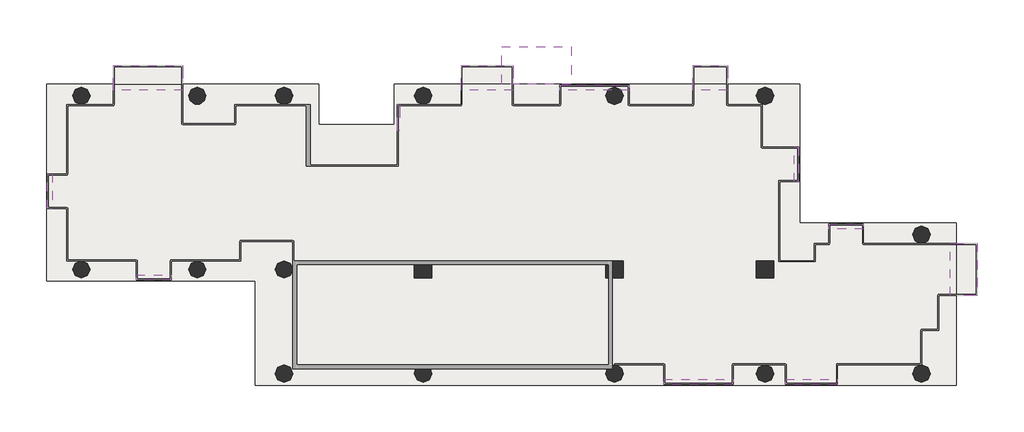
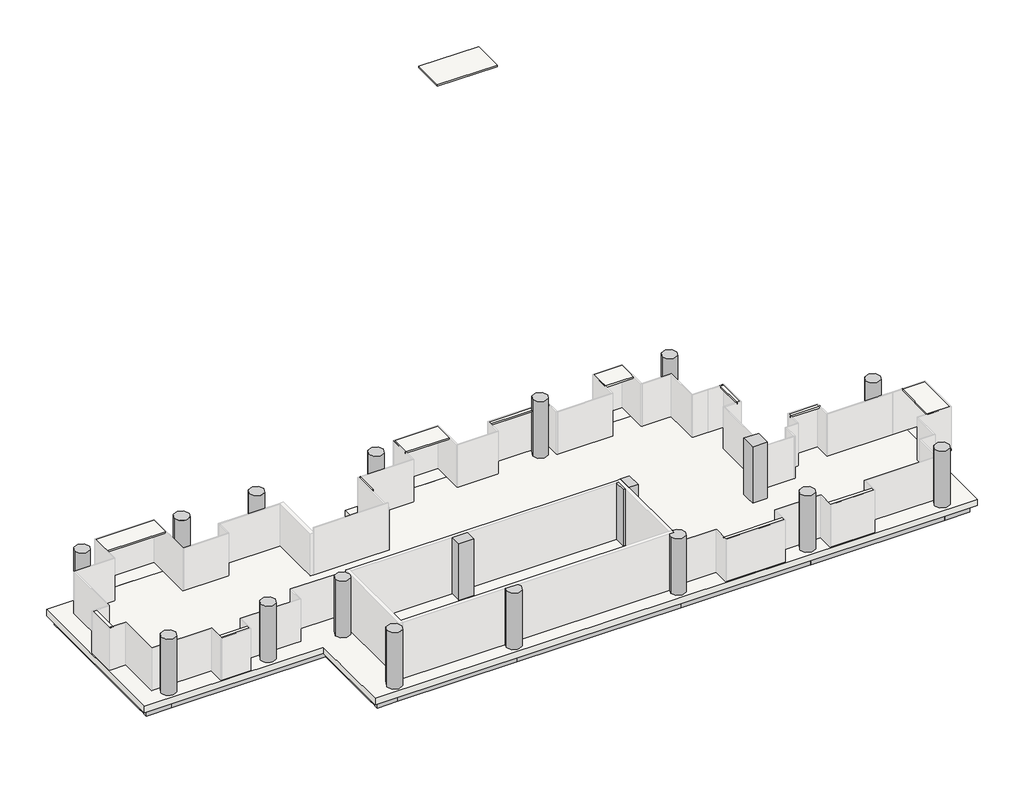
# One storey, part 2 of 2: 40 slabs, 25 beams, 18 columns.
"""IFC4 building model written with IfcOpenShell, lengths in millimetres."""

from ifc_helpers import new_model, si_unit, point, frame, frame_2d, origin, place, context, project, spatial, polyline, circle_curve, trimmed, segment, composite_curve, outline, extrude, transform, mapped, element, save
from ifc_brep_helpers import plane_surface, cylinder_surface, advanced_brep
from components import ajn_arc_ossature_rec_ba_700x600_5242ffbb, ajn_arc_ossature_rec_ba_700x600_213c05e2, ajn_arc_ossature_rec_ba_700x600_4d623bda, ajn_arc_ossature_rec_ba_700x600_c2a8f1af, ajn_arc_ossature_rec_ba_700x600_b2f97811, ajn_arc_ossature_rec_ba_700x600_e688680c, ajn_arc_ossature_rec_ba_700x600_8adee879, ajn_arc_ossature_rec_ba_700x600_6677e51c, ajn_arc_ossature_rec_ba_700x600_60e35d56, ajn_arc_ossature_rec_ba_700x600_9ae0f913, ajn_arc_ossature_rec_ba_700x600_5c14351b, ajn_arc_ossature_rec_ba_700x600_e883967f, ajn_arc_ossature_rec_ba_700x600_0984b03c, ajn_arc_ossature_rec_ba_700x600_78f846f2, ajn_arc_ossature_rec_ba_700x600_e869caa8, ajn_arc_ossature_rec_ba_700x600_0388eb48, ajn_arc_ossature_rec_ba_700x600_e143517c, ajn_arc_ossature_rec_ba_700x600_758f1bfa, ajn_arc_ossature_rec_ba_700x600_64ba80e1, ajn_arc_poteau_circulaire_69af3657

model = new_model("IFC4")

# Units and contexts
model_context = context("Model", 3, world=origin())
ifc_project = project(units=[si_unit("LENGTHUNIT", "METRE", prefix="MILLI")], contexts=[model_context])

# Site, building, storey
site = spatial("IfcSite", under=ifc_project)
building = spatial("IfcBuilding", under=site)
storey = spatial("IfcBuildingStorey", under=building, Name="TW-L 11", Elevation=38799.9999686)

# Beams
placement = place(None, origin())
ajn_arc_ossature_rec_ba_700x600_shape = ajn_arc_ossature_rec_ba_700x600_5242ffbb(model_context)
element("IfcBeam", 1, ObjectType="AJN-ARC-OSSATURE REC-BA : 700x600", at=placement, inside=storey, context=model_context, shape_type="MappedRepresentation", body=[
    mapped(ajn_arc_ossature_rec_ba_700x600_shape, transform((119350.0, 39300.0, 38249.9999686), x_axis=(-1.0, 0.0, 0.0), y_axis=(0.0, -1.0, 0.0), z_axis=(0.0, 0.0, 1.0))),
])
ajn_arc_ossature_rec_ba_700x600_2_shape = ajn_arc_ossature_rec_ba_700x600_213c05e2(model_context)
element("IfcBeam", 2, ObjectType="AJN-ARC-OSSATURE REC-BA : 700x600", at=placement, inside=storey, context=model_context, shape_type="MappedRepresentation", body=[
    mapped(ajn_arc_ossature_rec_ba_700x600_2_shape, transform((100900.0, 34800.0, 38249.9999686), x_axis=(0.0, -1.0, 0.0), y_axis=(1.0, 0.0, 0.0), z_axis=(0.0, 0.0, 1.0))),
])
ajn_arc_ossature_rec_ba_700x600_3_shape = ajn_arc_ossature_rec_ba_700x600_4d623bda(model_context)
element("IfcBeam", 3, ObjectType="AJN-ARC-OSSATURE REC-BA : 700x600", at=placement, inside=storey, context=model_context, shape_type="MappedRepresentation", body=[
    mapped(ajn_arc_ossature_rec_ba_700x600_3_shape, transform((112150.0, 24900.0, 38249.9999686), x_axis=(1.0, 0.0, 0.0), y_axis=(0.0, 1.0, 0.0), z_axis=(0.0, 0.0, 1.0))),
])
ajn_arc_ossature_rec_ba_700x600_4_shape = ajn_arc_ossature_rec_ba_700x600_c2a8f1af(model_context)
element("IfcBeam", 4, ObjectType="AJN-ARC-OSSATURE REC-BA : 700x600", at=placement, inside=storey, context=model_context, shape_type="MappedRepresentation", body=[
    mapped(ajn_arc_ossature_rec_ba_700x600_4_shape, transform((116200.0, 24900.0, 38249.9999686), x_axis=(1.0, 0.0, 0.0), y_axis=(0.0, 1.0, 0.0), z_axis=(0.0, 0.0, 1.0))),
])
ajn_arc_ossature_rec_ba_700x600_5_shape = ajn_arc_ossature_rec_ba_700x600_b2f97811(model_context)
element("IfcBeam", 5, ObjectType="AJN-ARC-OSSATURE REC-BA : 700x600", at=placement, inside=storey, context=model_context, shape_type="MappedRepresentation", body=[
    mapped(ajn_arc_ossature_rec_ba_700x600_5_shape, transform((106900.0, 30300.0, 38249.9999686), x_axis=(1.0, 0.0, 0.0), y_axis=(0.0, 1.0, 0.0), z_axis=(0.0, 0.0, 1.0))),
])
ajn_arc_ossature_rec_ba_700x600_6_shape = ajn_arc_ossature_rec_ba_700x600_e688680c(model_context)
element("IfcBeam", 6, ObjectType="AJN-ARC-OSSATURE REC-BA : 700x600", at=placement, inside=storey, context=model_context, shape_type="MappedRepresentation", body=[
    mapped(ajn_arc_ossature_rec_ba_700x600_6_shape, transform((111700.0, 27600.0, 38249.9999686), x_axis=(0.0, -1.0, 0.0), y_axis=(1.0, 0.0, 0.0), z_axis=(0.0, 0.0, 1.0))),
])
ajn_arc_ossature_rec_ba_700x600_7_shape = ajn_arc_ossature_rec_ba_700x600_8adee879(model_context)
element("IfcBeam", 7, ObjectType="AJN-ARC-OSSATURE REC-BA : 700x600", at=placement, inside=storey, context=model_context, shape_type="MappedRepresentation", body=[
    mapped(ajn_arc_ossature_rec_ba_700x600_7_shape, transform((124750.0, 24900.0, 38249.9999686), x_axis=(1.0, 0.0, 0.0), y_axis=(0.0, 1.0, 0.0), z_axis=(0.0, 0.0, 1.0))),
])
element("IfcBeam", 8, ObjectType="AJN-ARC-OSSATURE REC-BA : 700x600", at=placement, inside=storey, context=model_context, shape_type="MappedRepresentation", body=[
    mapped(ajn_arc_ossature_rec_ba_700x600_7_shape, transform((124750.0, 39300.0, 38249.9999686), x_axis=(-1.0, 0.0, 0.0), y_axis=(0.0, -1.0, 0.0), z_axis=(0.0, 0.0, 1.0))),
])
ajn_arc_ossature_rec_ba_700x600_8_shape = ajn_arc_ossature_rec_ba_700x600_6677e51c(model_context)
element("IfcBeam", 9, ObjectType="AJN-ARC-OSSATURE REC-BA : 700x600", at=placement, inside=storey, context=model_context, shape_type="MappedRepresentation", body=[
    mapped(ajn_arc_ossature_rec_ba_700x600_8_shape, transform((133600.0, 24900.0, 38249.9999686), x_axis=(1.0, 0.0, 0.0), y_axis=(0.0, 1.0, 0.0), z_axis=(0.0, 0.0, 1.0))),
])
ajn_arc_ossature_rec_ba_700x600_9_shape = ajn_arc_ossature_rec_ba_700x600_60e35d56(model_context)
element("IfcBeam", 10, ObjectType="AJN-ARC-OSSATURE REC-BA : 700x600", at=placement, inside=storey, context=model_context, shape_type="MappedRepresentation", body=[
    mapped(ajn_arc_ossature_rec_ba_700x600_9_shape, transform((141550.0, 24900.0, 38249.9999686), x_axis=(1.0, 0.0, 0.0), y_axis=(0.0, 1.0, 0.0), z_axis=(0.0, 0.0, 1.0))),
])
ajn_arc_ossature_rec_ba_700x600_10_shape = ajn_arc_ossature_rec_ba_700x600_9ae0f913(model_context)
element("IfcBeam", 11, ObjectType="AJN-ARC-OSSATURE REC-BA : 700x600", at=placement, inside=storey, context=model_context, shape_type="MappedRepresentation", body=[
    mapped(ajn_arc_ossature_rec_ba_700x600_10_shape, transform((146200.0, 24900.0, 38249.9999686), x_axis=(1.0, 0.0, 0.0), y_axis=(0.0, 1.0, 0.0), z_axis=(0.0, 0.0, 1.0))),
])
element("IfcBeam", 12, ObjectType="AJN-ARC-OSSATURE REC-BA : 700x600", at=placement, inside=storey, context=model_context, shape_type="MappedRepresentation", body=[
    mapped(ajn_arc_ossature_rec_ba_700x600_10_shape, transform((101500.0, 39300.0, 38249.9999686), x_axis=(-1.0, 0.0, 0.0), y_axis=(0.0, -1.0, 0.0), z_axis=(0.0, 0.0, 1.0))),
])
ajn_arc_ossature_rec_ba_700x600_11_shape = ajn_arc_ossature_rec_ba_700x600_5c14351b(model_context)
element("IfcBeam", 13, ObjectType="AJN-ARC-OSSATURE REC-BA : 700x600", at=placement, inside=storey, context=model_context, shape_type="MappedRepresentation", body=[
    mapped(ajn_arc_ossature_rec_ba_700x600_11_shape, transform((146800.0, 28500.0, 38249.9999686), x_axis=(0.0, 1.0, 0.0), y_axis=(-1.0, 0.0, 0.0), z_axis=(0.0, 0.0, 1.0))),
])
element("IfcBeam", 14, ObjectType="AJN-ARC-OSSATURE REC-BA : 700x600", at=placement, inside=storey, context=model_context, shape_type="MappedRepresentation", body=[
    mapped(ajn_arc_ossature_rec_ba_700x600_11_shape, transform((138700.0, 35700.0, 38249.9999686), x_axis=(0.0, 1.0, 0.0), y_axis=(-1.0, 0.0, 0.0), z_axis=(0.0, 0.0, 1.0))),
])
ajn_arc_ossature_rec_ba_700x600_12_shape = ajn_arc_ossature_rec_ba_700x600_e883967f(model_context)
element("IfcBeam", 15, ObjectType="AJN-ARC-OSSATURE REC-BA : 700x600", at=placement, inside=storey, context=model_context, shape_type="MappedRepresentation", body=[
    mapped(ajn_arc_ossature_rec_ba_700x600_12_shape, transform((146200.0, 32100.0, 38249.9999686), x_axis=(-1.0, 0.0, 0.0), y_axis=(0.0, -1.0, 0.0), z_axis=(0.0, 0.0, 1.0))),
])
element("IfcBeam", 16, ObjectType="AJN-ARC-OSSATURE REC-BA : 700x600", at=placement, inside=storey, context=model_context, shape_type="MappedRepresentation", body=[
    mapped(ajn_arc_ossature_rec_ba_700x600_12_shape, transform((138100.0, 39300.0, 38249.9999686), x_axis=(-1.0, 0.0, 0.0), y_axis=(0.0, -1.0, 0.0), z_axis=(0.0, 0.0, 1.0))),
])
element("IfcBeam", 17, ObjectType="AJN-ARC-OSSATURE REC-BA : 700x600", at=placement, inside=storey, context=model_context, shape_type="MappedRepresentation", body=[
    mapped(ajn_arc_ossature_rec_ba_700x600_12_shape, transform((113200.0, 39300.0, 38249.9999686), x_axis=(-1.0, 0.0, 0.0), y_axis=(0.0, -1.0, 0.0), z_axis=(0.0, 0.0, 1.0))),
])
element("IfcBeam", 18, ObjectType="AJN-ARC-OSSATURE REC-BA : 700x600", at=placement, inside=storey, context=model_context, shape_type="MappedRepresentation", body=[
    mapped(ajn_arc_ossature_rec_ba_700x600_12_shape, transform((101500.0, 30300.0, 38249.9999686), x_axis=(1.0, 0.0, 0.0), y_axis=(0.0, 1.0, 0.0), z_axis=(0.0, 0.0, 1.0))),
])
ajn_arc_ossature_rec_ba_700x600_13_shape = ajn_arc_ossature_rec_ba_700x600_0984b03c(model_context)
element("IfcBeam", 19, ObjectType="AJN-ARC-OSSATURE REC-BA : 700x600", at=placement, inside=storey, context=model_context, shape_type="MappedRepresentation", body=[
    mapped(ajn_arc_ossature_rec_ba_700x600_13_shape, transform((142150.0, 32100.0, 38249.9999686), x_axis=(-1.0, 0.0, 0.0), y_axis=(0.0, -1.0, 0.0), z_axis=(0.0, 0.0, 1.0))),
])
ajn_arc_ossature_rec_ba_700x600_14_shape = ajn_arc_ossature_rec_ba_700x600_78f846f2(model_context)
element("IfcBeam", 20, ObjectType="AJN-ARC-OSSATURE REC-BA : 700x600", at=placement, inside=storey, context=model_context, shape_type="MappedRepresentation", body=[
    mapped(ajn_arc_ossature_rec_ba_700x600_14_shape, transform((133600.0, 39300.0, 38249.9999686), x_axis=(-1.0, 0.0, 0.0), y_axis=(0.0, -1.0, 0.0), z_axis=(0.0, 0.0, 1.0))),
])
ajn_arc_ossature_rec_ba_700x600_15_shape = ajn_arc_ossature_rec_ba_700x600_e869caa8(model_context)
element("IfcBeam", 21, ObjectType="AJN-ARC-OSSATURE REC-BA : 700x600", at=placement, inside=storey, context=model_context, shape_type="MappedRepresentation", body=[
    mapped(ajn_arc_ossature_rec_ba_700x600_15_shape, transform((118900.0, 38250.0, 38249.9999686), x_axis=(0.0, -1.0, 0.0), y_axis=(1.0, 0.0, 0.0), z_axis=(0.0, 0.0, 1.0))),
])
ajn_arc_ossature_rec_ba_700x600_16_shape = ajn_arc_ossature_rec_ba_700x600_0388eb48(model_context)
element("IfcBeam", 22, ObjectType="AJN-ARC-OSSATURE REC-BA : 700x600", at=placement, inside=storey, context=model_context, shape_type="MappedRepresentation", body=[
    mapped(ajn_arc_ossature_rec_ba_700x600_16_shape, transform((110350.0, 39300.0, 38249.9999686), x_axis=(-1.0, 0.0, 0.0), y_axis=(0.0, -1.0, 0.0), z_axis=(0.0, 0.0, 1.0))),
])
ajn_arc_ossature_rec_ba_700x600_17_shape = ajn_arc_ossature_rec_ba_700x600_e143517c(model_context)
element("IfcBeam", 23, ObjectType="AJN-ARC-OSSATURE REC-BA : 700x600", at=placement, inside=storey, context=model_context, shape_type="MappedRepresentation", body=[
    mapped(ajn_arc_ossature_rec_ba_700x600_17_shape, transform((105100.0, 39300.0, 38249.9999686), x_axis=(-1.0, 0.0, 0.0), y_axis=(0.0, -1.0, 0.0), z_axis=(0.0, 0.0, 1.0))),
])
ajn_arc_ossature_rec_ba_700x600_18_shape = ajn_arc_ossature_rec_ba_700x600_758f1bfa(model_context)
element("IfcBeam", 24, ObjectType="AJN-ARC-OSSATURE REC-BA : 700x600", at=placement, inside=storey, context=model_context, shape_type="MappedRepresentation", body=[
    mapped(ajn_arc_ossature_rec_ba_700x600_18_shape, transform((116350.0, 37200.0, 38249.9999686), x_axis=(-1.0, 0.0, 0.0), y_axis=(0.0, -1.0, 0.0), z_axis=(0.0, 0.0, 1.0))),
])
ajn_arc_ossature_rec_ba_700x600_19_shape = ajn_arc_ossature_rec_ba_700x600_64ba80e1(model_context)
element("IfcBeam", 25, ObjectType="AJN-ARC-OSSATURE REC-BA : 700x600", at=placement, inside=storey, context=model_context, shape_type="MappedRepresentation", body=[
    mapped(ajn_arc_ossature_rec_ba_700x600_19_shape, transform((113800.0, 38250.0, 38249.9999686), x_axis=(0.0, 1.0, 0.0), y_axis=(-1.0, 0.0, 0.0), z_axis=(0.0, 0.0, 1.0))),
])

# Columns
element("IfcColumn", 26, ObjectType="AJN-ARC-POTEAU CIRCULAIRE : ø90", at=placement, inside=storey, context=model_context, shape_type="SweptSolid", body=[
    extrude(outline(composite_curve([segment(trimmed(circle_curve(frame_2d((102100.0, 39300.0)), 450.0), [point((101650.0, 39300.0))], [point((102550.0, 39300.0))], False, "CARTESIAN"), True, "CONTINUOUS"), segment(trimmed(circle_curve(frame_2d((102100.0, 39300.0)), 450.0), [point((102550.0, 39300.0))], [point((101650.0, 39300.0))], False, "CARTESIAN"), True, "CONTINUOUS")], self_intersect=False)), frame((0.0, 0.0, 38799.9999686), z_axis=(0.0, 0.0, 1.0), x_axis=(1.0, 0.0, 0.0)), (0.0, 0.0, 1.0), 3600.0),
])
element("IfcColumn", 27, ObjectType="AJN-ARC-POTEAU CIRCULAIRE : ø90", at=placement, inside=storey, context=model_context, shape_type="SweptSolid", body=[
    extrude(outline(composite_curve([segment(trimmed(circle_curve(frame_2d((102100.0, 30300.0)), 450.0), [point((101650.0, 30300.0))], [point((102550.0, 30300.0))], False, "CARTESIAN"), True, "CONTINUOUS"), segment(trimmed(circle_curve(frame_2d((102100.0, 30300.0)), 450.0), [point((102550.0, 30300.0))], [point((101650.0, 30300.0))], False, "CARTESIAN"), True, "CONTINUOUS")], self_intersect=False)), frame((0.0, 0.0, 38799.9999686), z_axis=(0.0, 0.0, 1.0), x_axis=(1.0, 0.0, 0.0)), (0.0, 0.0, 1.0), 3600.0),
])
element("IfcColumn", 28, ObjectType="AJN-ARC-POTEAU CIRCULAIRE : ø90", at=placement, inside=storey, context=model_context, shape_type="SweptSolid", body=[
    extrude(outline(composite_curve([segment(trimmed(circle_curve(frame_2d((108100.0, 30300.0)), 450.0), [point((107650.0, 30300.0))], [point((108550.0, 30300.0))], False, "CARTESIAN"), True, "CONTINUOUS"), segment(trimmed(circle_curve(frame_2d((108100.0, 30300.0)), 450.0), [point((108550.0, 30300.0))], [point((107650.0, 30300.0))], False, "CARTESIAN"), True, "CONTINUOUS")], self_intersect=False)), frame((0.0, 0.0, 38799.9999686), z_axis=(0.0, 0.0, 1.0), x_axis=(1.0, 0.0, 0.0)), (0.0, 0.0, 1.0), 3600.0),
])
element("IfcColumn", 29, ObjectType="AJN-ARC-POTEAU CIRCULAIRE : ø90", at=placement, inside=storey, context=model_context, shape_type="SweptSolid", body=[
    extrude(outline(composite_curve([segment(trimmed(circle_curve(frame_2d((112600.0, 39300.0)), 450.0), [point((112150.0, 39300.0))], [point((113050.0, 39300.0))], False, "CARTESIAN"), True, "CONTINUOUS"), segment(trimmed(circle_curve(frame_2d((112600.0, 39300.0)), 450.0), [point((113050.0, 39300.0))], [point((112150.0, 39300.0))], False, "CARTESIAN"), True, "CONTINUOUS")], self_intersect=False)), frame((0.0, 0.0, 38799.9999686), z_axis=(0.0, 0.0, 1.0), x_axis=(1.0, 0.0, 0.0)), (0.0, 0.0, 1.0), 3600.0),
])
element("IfcColumn", 30, ObjectType="AJN-ARC-POTEAU CIRCULAIRE : ø90", at=placement, inside=storey, context=model_context, shape_type="SweptSolid", body=[
    extrude(outline(composite_curve([segment(trimmed(circle_curve(frame_2d((112600.0, 30300.0)), 450.0), [point((112150.0, 30300.0))], [point((113050.0, 30300.0))], False, "CARTESIAN"), True, "CONTINUOUS"), segment(trimmed(circle_curve(frame_2d((112600.0, 30300.0)), 450.0), [point((113050.0, 30300.0))], [point((112150.0, 30300.0))], False, "CARTESIAN"), True, "CONTINUOUS")], self_intersect=False)), frame((0.0, 0.0, 38799.9999686), z_axis=(0.0, 0.0, 1.0), x_axis=(1.0, 0.0, 0.0)), (0.0, 0.0, 1.0), 3600.0),
])
element("IfcColumn", 31, ObjectType="AJN-ARC-POTEAU CIRCULAIRE : ø90", at=placement, inside=storey, context=model_context, shape_type="SweptSolid", body=[
    extrude(outline(composite_curve([segment(trimmed(circle_curve(frame_2d((112600.0, 24900.0)), 450.0), [point((112150.0, 24900.0))], [point((113050.0, 24900.0))], False, "CARTESIAN"), True, "CONTINUOUS"), segment(trimmed(circle_curve(frame_2d((112600.0, 24900.0)), 450.0), [point((113050.0, 24900.0))], [point((112150.0, 24900.0))], False, "CARTESIAN"), True, "CONTINUOUS")], self_intersect=False)), frame((0.0, 0.0, 38799.9999686), z_axis=(0.0, 0.0, 1.0), x_axis=(1.0, 0.0, 0.0)), (0.0, 0.0, 1.0), 3600.0),
])
element("IfcColumn", 32, ObjectType="AJN-ARC-POTEAU CIRCULAIRE : ø90", at=placement, inside=storey, context=model_context, shape_type="SweptSolid", body=[
    extrude(outline(composite_curve([segment(trimmed(circle_curve(frame_2d((119800.0, 24900.0)), 450.0), [point((120250.0, 24900.0))], [point((119350.0, 24900.0))], False, "CARTESIAN"), True, "CONTINUOUS"), segment(trimmed(circle_curve(frame_2d((119800.0, 24900.0)), 450.0), [point((119350.0, 24900.0))], [point((119425.8342613, 25150.0))], False, "CARTESIAN"), True, "CONTINUOUS"), segment(polyline([(119425.8342613, 25150.0), (120174.1657387, 25150.0)]), True, "CONTINUOUS"), segment(trimmed(circle_curve(frame_2d((119800.0, 24900.0)), 450.0), [point((120174.1657387, 25150.0))], [point((120250.0, 24900.0))], False, "CARTESIAN"), True, "CONTINUOUS")], self_intersect=False)), frame((0.0, 0.0, 38799.9999686), z_axis=(0.0, 0.0, 1.0), x_axis=(1.0, 0.0, 0.0)), (0.0, 0.0, 1.0), 3600.0),
])
element("IfcColumn", 33, ObjectType="AJN-ARC-POTEAU CIRCULAIRE : ø90", at=placement, inside=storey, context=model_context, shape_type="SweptSolid", body=[
    extrude(outline(composite_curve([segment(trimmed(circle_curve(frame_2d((119800.0, 39300.0)), 450.0), [point((119350.0, 39300.0))], [point((120250.0, 39300.0))], False, "CARTESIAN"), True, "CONTINUOUS"), segment(trimmed(circle_curve(frame_2d((119800.0, 39300.0)), 450.0), [point((120250.0, 39300.0))], [point((119350.0, 39300.0))], False, "CARTESIAN"), True, "CONTINUOUS")], self_intersect=False)), frame((0.0, 0.0, 38799.9999686), z_axis=(0.0, 0.0, 1.0), x_axis=(1.0, 0.0, 0.0)), (0.0, 0.0, 1.0), 3600.0),
])
element("IfcColumn", 34, ObjectType="AJN-ARC-POTEAU CIRCULAIRE : ø90", at=placement, inside=storey, context=model_context, shape_type="SweptSolid", body=[
    extrude(outline(composite_curve([segment(trimmed(circle_curve(frame_2d((129700.0, 39300.0)), 450.0), [point((129250.0, 39300.0))], [point((130150.0, 39300.0))], False, "CARTESIAN"), True, "CONTINUOUS"), segment(trimmed(circle_curve(frame_2d((129700.0, 39300.0)), 450.0), [point((130150.0, 39300.0))], [point((129250.0, 39300.0))], False, "CARTESIAN"), True, "CONTINUOUS")], self_intersect=False)), frame((0.0, 0.0, 38799.9999686), z_axis=(0.0, 0.0, 1.0), x_axis=(1.0, 0.0, 0.0)), (0.0, 0.0, 1.0), 3600.0),
])
element("IfcColumn", 35, ObjectType="AJN-ARC-POTEAU CIRCULAIRE : ø90", at=placement, inside=storey, context=model_context, shape_type="SweptSolid", body=[
    extrude(outline(composite_curve([segment(trimmed(circle_curve(frame_2d((129700.0, 24900.0)), 450.0), [point((130150.0, 24900.0))], [point((129250.0, 24900.0))], False, "CARTESIAN"), True, "CONTINUOUS"), segment(trimmed(circle_curve(frame_2d((129700.0, 24900.0)), 450.0), [point((129250.0, 24900.0))], [point((129325.8342613, 25150.0))], False, "CARTESIAN"), True, "CONTINUOUS"), segment(polyline([(129325.8342613, 25150.0), (129600.0, 25150.0), (129600.0, 25338.7482194)]), True, "CONTINUOUS"), segment(trimmed(circle_curve(frame_2d((129700.0, 24900.0)), 450.0), [point((129600.0, 25338.7482194))], [point((130150.0, 24900.0))], False, "CARTESIAN"), True, "CONTINUOUS")], self_intersect=False)), frame((0.0, 0.0, 38799.9999686), z_axis=(0.0, 0.0, 1.0), x_axis=(1.0, 0.0, 0.0)), (0.0, 0.0, 1.0), 3600.0),
])
element("IfcColumn", 36, ObjectType="AJN-ARC-POTEAU CIRCULAIRE : ø90", at=placement, inside=storey, context=model_context, shape_type="SweptSolid", body=[
    extrude(outline(composite_curve([segment(trimmed(circle_curve(frame_2d((137500.0, 39300.0)), 450.0), [point((137050.0, 39300.0))], [point((137950.0, 39300.0))], False, "CARTESIAN"), True, "CONTINUOUS"), segment(trimmed(circle_curve(frame_2d((137500.0, 39300.0)), 450.0), [point((137950.0, 39300.0))], [point((137050.0, 39300.0))], False, "CARTESIAN"), True, "CONTINUOUS")], self_intersect=False)), frame((0.0, 0.0, 38799.9999686), z_axis=(0.0, 0.0, 1.0), x_axis=(1.0, 0.0, 0.0)), (0.0, 0.0, 1.0), 3600.0),
])
element("IfcColumn", 37, ObjectType="AJN-ARC-POTEAU CIRCULAIRE : ø90", at=placement, inside=storey, context=model_context, shape_type="SweptSolid", body=[
    extrude(outline(composite_curve([segment(trimmed(circle_curve(frame_2d((137500.0, 24900.0)), 450.0), [point((137050.0, 24900.0))], [point((137950.0, 24900.0))], False, "CARTESIAN"), True, "CONTINUOUS"), segment(trimmed(circle_curve(frame_2d((137500.0, 24900.0)), 450.0), [point((137950.0, 24900.0))], [point((137050.0, 24900.0))], False, "CARTESIAN"), True, "CONTINUOUS")], self_intersect=False)), frame((0.0, 0.0, 38799.9999686), z_axis=(0.0, 0.0, 1.0), x_axis=(1.0, 0.0, 0.0)), (0.0, 0.0, 1.0), 3600.0),
])
element("IfcColumn", 38, ObjectType="AJN-ARC-POTEAU CIRCULAIRE : ø90", at=placement, inside=storey, context=model_context, shape_type="SweptSolid", body=[
    extrude(outline(composite_curve([segment(trimmed(circle_curve(frame_2d((145600.0, 24900.0)), 450.0), [point((145150.0, 24900.0))], [point((146050.0, 24900.0))], False, "CARTESIAN"), True, "CONTINUOUS"), segment(trimmed(circle_curve(frame_2d((145600.0, 24900.0)), 450.0), [point((146050.0, 24900.0))], [point((145150.0, 24900.0))], False, "CARTESIAN"), True, "CONTINUOUS")], self_intersect=False)), frame((0.0, 0.0, 38799.9999686), z_axis=(0.0, 0.0, 1.0), x_axis=(1.0, 0.0, 0.0)), (0.0, 0.0, 1.0), 3600.0),
])
element("IfcColumn", 39, ObjectType="AJN-ARC-POTEAU CIRCULAIRE : ø90", at=placement, inside=storey, context=model_context, shape_type="AdvancedBrep", body=[
    advanced_brep(
    [(145150.0, 32100.0, 38799.9999686), (146050.0, 32100.0, 38799.9999686), (145638.6089983, 31651.6593424, 38799.9999686), (145561.3910017, 31651.6593424, 38799.9999686), (145150.0, 32100.0, 42399.9999686), (146050.0, 32100.0, 42399.9999686), (145561.3910017, 31651.6593424, 41499.9999686), (145638.6089983, 31651.6593424, 41499.9999686)],
    [
        (0, 1, circle_curve(frame((145600.0, 32100.0, 38799.9999686), z_axis=(0.0, 0.0, -1.0), x_axis=(1.0, 0.0, 0.0)), 450.0)),
        (1, 2, circle_curve(frame((145600.0, 32100.0, 38799.9999686), z_axis=(0.0, 0.0, -1.0), x_axis=(1.0, 0.0, 0.0)), 450.0)),
        (2, 3),
        (3, 0, circle_curve(frame((145600.0, 32100.0, 38799.9999686), z_axis=(0.0, 0.0, -1.0), x_axis=(1.0, 0.0, 0.0)), 450.0)),
        (0, 4),
        (4, 5, circle_curve(frame((145600.0, 32100.0, 42399.9999686), z_axis=(0.0, 0.0, -1.0), x_axis=(1.0, 0.0, 0.0)), 450.0)),
        (5, 1),
        (5, 4, circle_curve(frame((145600.0, 32100.0, 42399.9999686), z_axis=(0.0, 0.0, -1.0), x_axis=(1.0, 0.0, 0.0)), 450.0)),
        (3, 6),
        (6, 7, circle_curve(frame((145600.0, 32100.0, 41499.9999686), z_axis=(0.0, 0.0, 1.0), x_axis=(1.0, 0.0, 0.0)), 450.0)),
        (7, 2),
        (7, 6),
    ],
    [
        plane_surface(frame((146050.0, 32100.0, 38799.9999686), z_axis=(0.0, 0.0, -1.0), x_axis=(0.0, -1.0, 0.0))),
        cylinder_surface(frame((145600.0, 32100.0, 38799.9999686), z_axis=(0.0, 0.0, 1.0), x_axis=(1.0, 0.0, 0.0)), 450.0),
        plane_surface(frame((146050.0, 32100.0, 42399.9999686), z_axis=(0.0, 0.0, 1.0), x_axis=(0.0, 1.0, 0.0))),
        plane_surface(frame((146497.681474, 31651.6593424, 38799.9999686), z_axis=(0.0, -1.0, 0.0), x_axis=(-1.0, 0.0, 0.0))),
        plane_surface(frame((142597.681474, 31651.6593424, 41499.9999686), z_axis=(0.0, 0.0, -1.0), x_axis=(0.0, -1.0, 0.0))),
    ],
    [
        (0, [[1, 2, 3, 4]]),
        (1, [[-1, 5, 6, 7]]),
        (1, [[-7, 8, -5, -4, 9, 10, 11, -2]]),
        (2, [[-6, -8]]),
        (3, [[12, -9, -3, -11]]),
        (4, [[-12, -10]]),
    ],
),
])
ajn_arc_poteau_circulaire_shape = ajn_arc_poteau_circulaire_69af3657(model_context)
element("IfcColumn", 40, ObjectType="AJN-ARC-POTEAU CIRCULAIRE : ø90", at=placement, inside=storey, context=model_context, shape_type="MappedRepresentation", body=[
    mapped(ajn_arc_poteau_circulaire_shape, transform((108100.0, 39300.0, 0.0), x_axis=(1.0, 0.0, 0.0), y_axis=(0.0, 1.0, 0.0), z_axis=(0.0, 0.0, 1.0))),
])
element("IfcColumn", 41, ObjectType="AJN-ARC-POTEAU RECTANGULAIRE : 900 mm x 900 mm", at=placement, inside=storey, context=model_context, shape_type="SweptSolid", body=[
    extrude(outline(polyline([(137950.0, 30750.0), (137950.0, 29850.0), (137050.0, 29850.0), (137050.0, 30750.0), (137950.0, 30750.0)])), frame((0.0, 0.0, 38799.9999686), z_axis=(0.0, 0.0, 1.0), x_axis=(1.0, 0.0, 0.0)), (0.0, 0.0, 1.0), 3600.0),
])
element("IfcColumn", 42, ObjectType="AJN-ARC-POTEAU RECTANGULAIRE : 900 mm x 900 mm", at=placement, inside=storey, context=model_context, shape_type="SweptSolid", body=[
    extrude(outline(polyline([(129400.0, 29850.0), (129250.0, 29850.0), (129250.0, 30550.0), (129400.0, 30550.0), (129400.0, 29850.0)])), frame((0.0, 0.0, 38799.9999686), z_axis=(0.0, 0.0, 1.0), x_axis=(1.0, 0.0, 0.0)), (0.0, 0.0, 1.0), 3600.0),
    extrude(outline(polyline([(130150.0, 30750.0), (130150.0, 29850.0), (129600.0, 29850.0), (129600.0, 30750.0), (130150.0, 30750.0)])), frame((0.0, 0.0, 38799.9999686), z_axis=(0.0, 0.0, 1.0), x_axis=(1.0, 0.0, 0.0)), (0.0, 0.0, 1.0), 3600.0),
])
element("IfcColumn", 43, ObjectType="AJN-ARC-POTEAU RECTANGULAIRE : 900 mm x 900 mm", at=placement, inside=storey, context=model_context, shape_type="SweptSolid", body=[
    extrude(outline(polyline([(120250.0, 29850.0), (119350.0, 29850.0), (119350.0, 30550.0), (120250.0, 30550.0), (120250.0, 29850.0)])), frame((0.0, 0.0, 38799.9999686), z_axis=(0.0, 0.0, 1.0), x_axis=(1.0, 0.0, 0.0)), (0.0, 0.0, 1.0), 3600.0),
])

# Slabs
element("IfcSlab", 44, ObjectType="AJN-ARC-SLAB-10cm", at=placement, inside=storey, context=model_context, shape_type="SweptSolid", body=[
    extrude(outline(polyline([(107350.0, 39900.0), (103750.0, 39900.0), (103750.0, 40850.0), (107350.0, 40850.0), (107350.0, 39900.0)])), frame((0.0, 0.0, 38699.9999686), z_axis=(0.0, 0.0, 1.0), x_axis=(1.0, 0.0, 0.0)), (0.0, 0.0, 1.0), 100.0),
])
element("IfcSlab", 45, ObjectType="AJN-ARC-SLAB-10cm", at=placement, inside=storey, context=model_context, shape_type="SweptSolid", body=[
    extrude(outline(polyline([(148497.681474, 28951.6593424), (147400.0, 28951.6593424), (147400.0, 31651.6593424), (148497.681474, 31651.6593424), (148497.681474, 28951.6593424)])), frame((0.0, 0.0, 38699.9999686), z_axis=(0.0, 0.0, 1.0), x_axis=(1.0, 0.0, 0.0)), (0.0, 0.0, 1.0), 100.0),
])
element("IfcSlab", 46, ObjectType="AJN-ARC-SLAB-10cm", at=placement, inside=storey, context=model_context, shape_type="SweptSolid", body=[
    extrude(outline(polyline([(135557.0344085, 39900.0), (133757.0344085, 39900.0), (133757.0344085, 40850.0), (135557.0344085, 40850.0), (135557.0344085, 39900.0)])), frame((0.0, 0.0, 38699.9999686), z_axis=(0.0, 0.0, 1.0), x_axis=(1.0, 0.0, 0.0)), (0.0, 0.0, 1.0), 100.0),
])
element("IfcSlab", 47, ObjectType="AJN-ARC-SLAB-10cm", at=placement, inside=storey, context=model_context, shape_type="SweptSolid", body=[
    extrude(outline(polyline([(124459.0442395, 39900.0), (121759.0442395, 39900.0), (121759.0442395, 40850.0), (124459.0442395, 40850.0), (124459.0442395, 39900.0)])), frame((0.0, 0.0, 38699.9999686), z_axis=(0.0, 0.0, 1.0), x_axis=(1.0, 0.0, 0.0)), (0.0, 0.0, 1.0), 100.0),
])
element("IfcSlab", 48, ObjectType="AJN-ARC-SLAB-10cm", at=placement, inside=storey, context=model_context, shape_type="SweptSolid", body=[
    extrude(outline(polyline([(124459.0442395, 39900.0), (121759.0442395, 39900.0), (121759.0442395, 40850.0), (124459.0442395, 40850.0), (124459.0442395, 39900.0)])), frame((0.0, 0.0, 38699.9999686), z_axis=(0.0, 0.0, 1.0), x_axis=(1.0, 0.0, 0.0)), (0.0, 0.0, 1.0), 100.0),
])
element("IfcSlab", 49, ObjectType="AJN-ARC-SLAB-10cm", at=placement, inside=storey, context=model_context, shape_type="SweptSolid", body=[
    extrude(outline(polyline([(124459.0442395, 39900.0), (121759.0442395, 39900.0), (121759.0442395, 40850.0), (124459.0442395, 40850.0), (124459.0442395, 39900.0)])), frame((0.0, 0.0, 38699.9999686), z_axis=(0.0, 0.0, 1.0), x_axis=(1.0, 0.0, 0.0)), (0.0, 0.0, 1.0), 100.0),
])
element("IfcSlab", 50, ObjectType="AJN-ARC-SLAB-10cm", at=placement, inside=storey, context=model_context, shape_type="SweptSolid", body=[
    extrude(outline(polyline([(124459.0442395, 39900.0), (121759.0442395, 39900.0), (121759.0442395, 40850.0), (124459.0442395, 40850.0), (124459.0442395, 39900.0)])), frame((0.0, 0.0, 38699.9999686), z_axis=(0.0, 0.0, 1.0), x_axis=(1.0, 0.0, 0.0)), (0.0, 0.0, 1.0), 100.0),
])
element("IfcSlab", 51, ObjectType="AJN-ARC-SLAB-10cm", at=placement, inside=storey, context=model_context, shape_type="SweptSolid", body=[
    extrude(outline(polyline([(124459.0442395, 39900.0), (121759.0442395, 39900.0), (121759.0442395, 40850.0), (124459.0442395, 40850.0), (124459.0442395, 39900.0)])), frame((0.0, 0.0, 38699.9999686), z_axis=(0.0, 0.0, 1.0), x_axis=(1.0, 0.0, 0.0)), (0.0, 0.0, 1.0), 100.0),
])
element("IfcSlab", 52, ObjectType="AJN-ARC-SLAB-10cm", at=placement, inside=storey, context=model_context, shape_type="SweptSolid", body=[
    extrude(outline(polyline([(124459.0442395, 39900.0), (121759.0442395, 39900.0), (121759.0442395, 40850.0), (124459.0442395, 40850.0), (124459.0442395, 39900.0)])), frame((0.0, 0.0, 38699.9999686), z_axis=(0.0, 0.0, 1.0), x_axis=(1.0, 0.0, 0.0)), (0.0, 0.0, 1.0), 100.0),
])
element("IfcSlab", 53, ObjectType="AJN-ARC-SLAB-10cm", at=placement, inside=storey, context=model_context, shape_type="SweptSolid", body=[
    extrude(outline(polyline([(124459.0442395, 39900.0), (121759.0442395, 39900.0), (121759.0442395, 40850.0), (124459.0442395, 40850.0), (124459.0442395, 39900.0)])), frame((0.0, 0.0, 38699.9999686), z_axis=(0.0, 0.0, 1.0), x_axis=(1.0, 0.0, 0.0)), (0.0, 0.0, 1.0), 100.0),
])
element("IfcSlab", 54, ObjectType="AJN-ARC-SLAB-10cm", at=placement, inside=storey, context=model_context, shape_type="SweptSolid", body=[
    extrude(outline(polyline([(124459.0442395, 39900.0), (121759.0442395, 39900.0), (121759.0442395, 40850.0), (124459.0442395, 40850.0), (124459.0442395, 39900.0)])), frame((0.0, 0.0, 38699.9999686), z_axis=(0.0, 0.0, 1.0), x_axis=(1.0, 0.0, 0.0)), (0.0, 0.0, 1.0), 100.0),
])
element("IfcSlab", 55, ObjectType="AJN-ARC-SLAB-10cm", at=placement, inside=storey, context=model_context, shape_type="SweptSolid", body=[
    extrude(outline(polyline([(124459.0442395, 39900.0), (121759.0442395, 39900.0), (121759.0442395, 40850.0), (124459.0442395, 40850.0), (124459.0442395, 39900.0)])), frame((0.0, 0.0, 38699.9999686), z_axis=(0.0, 0.0, 1.0), x_axis=(1.0, 0.0, 0.0)), (0.0, 0.0, 1.0), 100.0),
])
element("IfcSlab", 56, ObjectType="AJN-ARC-SLAB-10cm", at=placement, inside=storey, context=model_context, shape_type="SweptSolid", body=[
    extrude(outline(polyline([(124459.0442395, 39900.0), (121759.0442395, 39900.0), (121759.0442395, 40850.0), (124459.0442395, 40850.0), (124459.0442395, 39900.0)])), frame((0.0, 0.0, 38699.9999686), z_axis=(0.0, 0.0, 1.0), x_axis=(1.0, 0.0, 0.0)), (0.0, 0.0, 1.0), 100.0),
])
element("IfcSlab", 57, ObjectType="AJN-ARC-SLAB-10cm", at=placement, inside=storey, context=model_context, shape_type="SweptSolid", body=[
    extrude(outline(polyline([(124459.0442395, 39900.0), (121759.0442395, 39900.0), (121759.0442395, 40850.0), (124459.0442395, 40850.0), (124459.0442395, 39900.0)])), frame((0.0, 0.0, 38699.9999686), z_axis=(0.0, 0.0, 1.0), x_axis=(1.0, 0.0, 0.0)), (0.0, 0.0, 1.0), 100.0),
])
element("IfcSlab", 58, ObjectType="AJN-ARC-SLAB-10cm", at=placement, inside=storey, context=model_context, shape_type="SweptSolid", body=[
    extrude(outline(polyline([(124459.0442395, 39900.0), (121759.0442395, 39900.0), (121759.0442395, 40850.0), (124459.0442395, 40850.0), (124459.0442395, 39900.0)])), frame((0.0, 0.0, 38699.9999686), z_axis=(0.0, 0.0, 1.0), x_axis=(1.0, 0.0, 0.0)), (0.0, 0.0, 1.0), 100.0),
])
element("IfcSlab", 59, ObjectType="AJN-ARC-SLAB-10cm", at=placement, inside=storey, context=model_context, shape_type="SweptSolid", body=[
    extrude(outline(polyline([(124459.0442395, 39900.0), (121759.0442395, 39900.0), (121759.0442395, 40850.0), (124459.0442395, 40850.0), (124459.0442395, 39900.0)])), frame((0.0, 0.0, 38699.9999686), z_axis=(0.0, 0.0, 1.0), x_axis=(1.0, 0.0, 0.0)), (0.0, 0.0, 1.0), 100.0),
])
element("IfcSlab", 60, ObjectType="AJN-ARC-SLAB-10cm", at=placement, inside=storey, context=model_context, shape_type="SweptSolid", body=[
    extrude(outline(polyline([(124459.0442395, 39900.0), (121759.0442395, 39900.0), (121759.0442395, 40850.0), (124459.0442395, 40850.0), (124459.0442395, 39900.0)])), frame((0.0, 0.0, 38699.9999686), z_axis=(0.0, 0.0, 1.0), x_axis=(1.0, 0.0, 0.0)), (0.0, 0.0, 1.0), 100.0),
])
element("IfcSlab", 61, ObjectType="AJN-ARC-SLAB-10cm", at=placement, inside=storey, context=model_context, shape_type="SweptSolid", body=[
    extrude(outline(polyline([(124459.0442395, 39900.0), (121759.0442395, 39900.0), (121759.0442395, 40850.0), (124459.0442395, 40850.0), (124459.0442395, 39900.0)])), frame((0.0, 0.0, 38699.9999686), z_axis=(0.0, 0.0, 1.0), x_axis=(1.0, 0.0, 0.0)), (0.0, 0.0, 1.0), 100.0),
])
element("IfcSlab", 62, ObjectType="AJN-ARC-SLAB-10cm", at=placement, inside=storey, context=model_context, shape_type="SweptSolid", body=[
    extrude(outline(polyline([(124459.0442395, 39900.0), (121759.0442395, 39900.0), (121759.0442395, 40850.0), (124459.0442395, 40850.0), (124459.0442395, 39900.0)])), frame((0.0, 0.0, 38699.9999686), z_axis=(0.0, 0.0, 1.0), x_axis=(1.0, 0.0, 0.0)), (0.0, 0.0, 1.0), 100.0),
])
element("IfcSlab", 63, ObjectType="AJN-ARC-SLAB-10cm", at=placement, inside=storey, context=model_context, shape_type="SweptSolid", body=[
    extrude(outline(polyline([(100600.0, 33450.0), (100347.1743518, 33450.0), (100347.1743518, 35250.0), (100600.0, 35250.0), (100600.0, 33450.0)])), frame((0.0, 0.0, 41399.9999686), z_axis=(0.0, 0.0, 1.0), x_axis=(1.0, 0.0, 0.0)), (0.0, 0.0, 1.0), 100.0),
])
element("IfcSlab", 64, ObjectType="AJN-ARC-SLAB-10cm", at=placement, inside=storey, context=model_context, shape_type="SweptSolid", body=[
    extrude(outline(polyline([(107350.0, 39600.0), (103750.0, 39600.0), (103750.0, 40850.0), (107350.0, 40850.0), (107350.0, 39600.0)])), frame((0.0, 0.0, 41399.9999686), z_axis=(0.0, 0.0, 1.0), x_axis=(1.0, 0.0, 0.0)), (0.0, 0.0, 1.0), 100.0),
])
element("IfcSlab", 65, ObjectType="AJN-ARC-SLAB-10cm", at=placement, inside=storey, context=model_context, shape_type="SweptSolid", body=[
    extrude(outline(polyline([(135557.0344085, 39600.0), (133757.0344085, 39600.0), (133757.0344085, 40850.0), (135557.0344085, 40850.0), (135557.0344085, 39600.0)])), frame((0.0, 0.0, 41399.9999686), z_axis=(0.0, 0.0, 1.0), x_axis=(1.0, 0.0, 0.0)), (0.0, 0.0, 1.0), 100.0),
])
element("IfcSlab", 66, ObjectType="AJN-ARC-SLAB-10cm", at=placement, inside=storey, context=model_context, shape_type="SweptSolid", body=[
    extrude(outline(polyline([(130463.0639015, 39600.0), (126863.0639015, 39600.0), (126863.0639015, 39850.0), (130463.0639015, 39850.0), (130463.0639015, 39600.0)])), frame((0.0, 0.0, 41399.9999686), z_axis=(0.0, 0.0, 1.0), x_axis=(1.0, 0.0, 0.0)), (0.0, 0.0, 1.0), 100.0),
])
element("IfcSlab", 67, ObjectType="AJN-ARC-SLAB-10cm", at=placement, inside=storey, context=model_context, shape_type="SweptSolid", body=[
    extrude(outline(polyline([(142597.681474, 32400.0), (140797.681474, 32400.0), (140797.681474, 32651.6593424), (142597.681474, 32651.6593424), (142597.681474, 32400.0)])), frame((0.0, 0.0, 41399.9999686), z_axis=(0.0, 0.0, 1.0), x_axis=(1.0, 0.0, 0.0)), (0.0, 0.0, 1.0), 100.0),
])
element("IfcSlab", 68, ObjectType="AJN-ARC-SLAB-10cm", at=placement, inside=storey, context=model_context, shape_type="SweptSolid", body=[
    extrude(outline(polyline([(106747.1743518, 29750.0), (104947.1743518, 29750.0), (104947.1743518, 30000.0), (106747.1743518, 30000.0), (106747.1743518, 29750.0)])), frame((0.0, 0.0, 41399.9999686), z_axis=(0.0, 0.0, 1.0), x_axis=(1.0, 0.0, 0.0)), (0.0, 0.0, 1.0), 100.0),
])
element("IfcSlab", 69, ObjectType="AJN-ARC-SLAB-10cm", at=placement, inside=storey, context=model_context, shape_type="SweptSolid", body=[
    extrude(outline(polyline([(124459.0442395, 39600.0), (121759.0442395, 39600.0), (121759.0442395, 40850.0), (124459.0442395, 40850.0), (124459.0442395, 39600.0)])), frame((0.0, 0.0, 41399.9999686), z_axis=(0.0, 0.0, 1.0), x_axis=(1.0, 0.0, 0.0)), (0.0, 0.0, 1.0), 100.0),
])
element("IfcSlab", 70, ObjectType="AJN-ARC-SLAB-10cm", at=placement, inside=storey, context=model_context, shape_type="SweptSolid", body=[
    extrude(outline(polyline([(139250.0, 34850.0), (139000.0, 34850.0), (139000.0, 36650.0), (139250.0, 36650.0), (139250.0, 34850.0)])), frame((0.0, 0.0, 41399.9999686), z_axis=(0.0, 0.0, 1.0), x_axis=(1.0, 0.0, 0.0)), (0.0, 0.0, 1.0), 100.0),
])
element("IfcSlab", 71, ObjectType="AJN-ARC-SLAB-10cm", at=placement, inside=storey, context=model_context, shape_type="SweptSolid", body=[
    extrude(outline(polyline([(148497.681474, 28951.6593424), (147100.0, 28951.6593424), (147100.0, 31651.6593424), (148497.681474, 31651.6593424), (148497.681474, 28951.6593424)])), frame((0.0, 0.0, 41399.9999686), z_axis=(0.0, 0.0, 1.0), x_axis=(1.0, 0.0, 0.0)), (0.0, 0.0, 1.0), 100.0),
])
element("IfcSlab", 72, ObjectType="AJN-ARC-SLAB-10cm", at=placement, inside=storey, context=model_context, shape_type="SweptSolid", body=[
    extrude(outline(polyline([(141250.3827907, 24350.0), (138550.3827907, 24350.0), (138550.3827907, 24600.0), (141250.3827907, 24600.0), (141250.3827907, 24350.0)])), frame((0.0, 0.0, 41399.9999686), z_axis=(0.0, 0.0, 1.0), x_axis=(1.0, 0.0, 0.0)), (0.0, 0.0, 1.0), 100.0),
])
element("IfcSlab", 73, ObjectType="AJN-ARC-SLAB-10cm", at=placement, inside=storey, context=model_context, shape_type="SweptSolid", body=[
    extrude(outline(polyline([(135850.3827907, 24350.0), (132250.3827907, 24350.0), (132250.3827907, 24600.0), (135850.3827907, 24600.0), (135850.3827907, 24350.0)])), frame((0.0, 0.0, 41399.9999686), z_axis=(0.0, 0.0, 1.0), x_axis=(1.0, 0.0, 0.0)), (0.0, 0.0, 1.0), 100.0),
])
element("IfcSlab", 74, ObjectType="AJN-ARC-SLAB-10cm", at=placement, inside=storey, context=model_context, shape_type="SweptSolid", body=[
    extrude(outline(polyline([(118600.0, 37500.0), (118450.0, 37500.0), (118450.0, 38850.0), (118600.0, 38850.0), (118600.0, 37500.0)])), frame((0.0, 0.0, 41399.9999686), z_axis=(0.0, 0.0, 1.0), x_axis=(1.0, 0.0, 0.0)), (0.0, 0.0, 1.0), 100.0),
])
element("IfcSlab", 75, ObjectType="AJN-ARC-SLAB-10cm", at=placement, inside=storey, context=model_context, shape_type="SweptSolid", body=[
    extrude(outline(polyline([(118600.0, 37500.0), (118450.0, 37500.0), (118450.0, 38850.0), (118600.0, 38850.0), (118600.0, 37500.0)])), frame((0.0, 0.0, 41399.9999686), z_axis=(0.0, 0.0, 1.0), x_axis=(1.0, 0.0, 0.0)), (0.0, 0.0, 1.0), 100.0),
])
element("IfcSlab", 76, ObjectType="AJN-ARC-SLAB-10cm", at=placement, inside=storey, context=model_context, shape_type="SweptSolid", body=[
    extrude(outline(polyline([(118600.0, 37500.0), (118450.0, 37500.0), (118450.0, 38850.0), (118600.0, 38850.0), (118600.0, 37500.0)])), frame((0.0, 0.0, 41399.9999686), z_axis=(0.0, 0.0, 1.0), x_axis=(1.0, 0.0, 0.0)), (0.0, 0.0, 1.0), 100.0),
])
element("IfcSlab", 77, ObjectType="AJN-ARC-SLAB-10cm", at=placement, inside=storey, context=model_context, shape_type="SweptSolid", body=[
    extrude(outline(polyline([(118600.0, 37500.0), (118450.0, 37500.0), (118450.0, 38850.0), (118600.0, 38850.0), (118600.0, 37500.0)])), frame((0.0, 0.0, 41399.9999686), z_axis=(0.0, 0.0, 1.0), x_axis=(1.0, 0.0, 0.0)), (0.0, 0.0, 1.0), 100.0),
])
element("IfcSlab", 78, ObjectType="AJN-ARC-SLAB-10cm", at=placement, inside=storey, context=model_context, shape_type="SweptSolid", body=[
    extrude(outline(polyline([(118600.0, 37500.0), (118450.0, 37500.0), (118450.0, 38850.0), (118600.0, 38850.0), (118600.0, 37500.0)])), frame((0.0, 0.0, 41399.9999686), z_axis=(0.0, 0.0, 1.0), x_axis=(1.0, 0.0, 0.0)), (0.0, 0.0, 1.0), 100.0),
])
element("IfcSlab", 79, ObjectType="AJN-ARC-SLAB-10cm", at=placement, inside=storey, context=model_context, shape_type="SweptSolid", body=[
    extrude(outline(polyline([(118600.0, 37500.0), (118450.0, 37500.0), (118450.0, 38850.0), (118600.0, 38850.0), (118600.0, 37500.0)])), frame((0.0, 0.0, 41399.9999686), z_axis=(0.0, 0.0, 1.0), x_axis=(1.0, 0.0, 0.0)), (0.0, 0.0, 1.0), 100.0),
])
element("IfcSlab", 80, ObjectType="AJN-ARC-SLAB-10cm", at=placement, inside=storey, context=model_context, shape_type="SweptSolid", body=[
    extrude(outline(polyline([(118600.0, 37500.0), (118450.0, 37500.0), (118450.0, 38850.0), (118600.0, 38850.0), (118600.0, 37500.0)])), frame((0.0, 0.0, 41399.9999686), z_axis=(0.0, 0.0, 1.0), x_axis=(1.0, 0.0, 0.0)), (0.0, 0.0, 1.0), 100.0),
])
element("IfcSlab", 81, ObjectType="AJN-ARC-SLAB-10cm", at=placement, inside=storey, context=model_context, shape_type="SweptSolid", body=[
    extrude(outline(polyline([(118600.0, 37500.0), (118450.0, 37500.0), (118450.0, 38850.0), (118600.0, 38850.0), (118600.0, 37500.0)])), frame((0.0, 0.0, 41399.9999686), z_axis=(0.0, 0.0, 1.0), x_axis=(1.0, 0.0, 0.0)), (0.0, 0.0, 1.0), 100.0),
])
element("IfcSlab", 82, ObjectType="AJN-ARC-SLAB-10cm", at=placement, inside=storey, context=model_context, shape_type="SweptSolid", body=[
    extrude(outline(polyline([(127463.0639015, 39900.0), (123863.0639015, 39900.0), (123863.0639015, 41850.0), (127463.0639015, 41850.0), (127463.0639015, 39900.0)])), frame((0.0, 0.0, 63900.0), z_axis=(0.0, 0.0, 1.0), x_axis=(1.0, 0.0, 0.0)), (0.0, 0.0, 1.0), 100.0),
])
element("IfcSlab", 83, ObjectType="AJN-ARC-SLAB-40cm", at=placement, inside=storey, context=model_context, shape_type="SweptSolid", body=[
    extrude(outline(polyline([(147400.0, 24300.0), (111100.0, 24300.0), (111100.0, 29700.0), (100300.0, 29700.0), (100300.0, 39900.0), (114400.0, 39900.0), (114400.0, 37800.0), (118300.0, 37800.0), (118300.0, 39900.0), (139300.0, 39900.0), (139300.0, 32700.0), (147400.0, 32700.0), (147400.0, 24300.0)])), frame((0.0, 0.0, 38399.9999686), z_axis=(0.0, 0.0, 1.0), x_axis=(1.0, 0.0, 0.0)), (0.0, 0.0, 1.0), 400.0),
])

save(model, "model.ifc")
